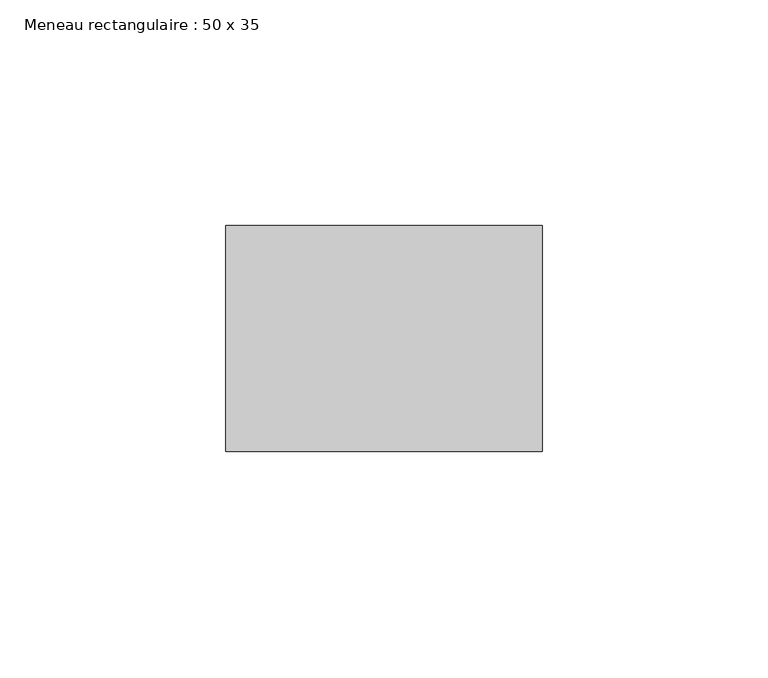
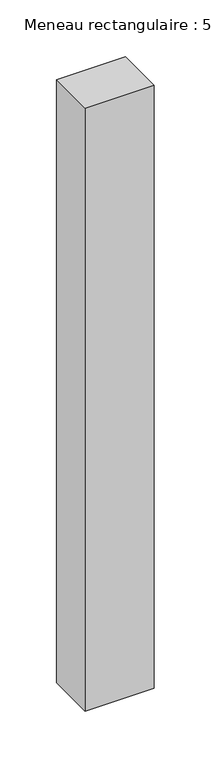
"""IFC4 building model written with IfcOpenShell, lengths in millimetres: member geometry, Meneau rectangulaire : 50 x 35."""

from ifc_helpers import new_model, si_unit, frame, origin, place, context, project, spatial, polyline, outline, extrude, source, transform, mapped, element, save


def meneau_rectangulaire_50_x_35_ffef914c(model_context):
    return source(origin(), model_context, "Body", "SweptSolid", [
        extrude(outline(polyline([(0.0, 0.0), (0.0, -50.0), (-70.0, -50.0), (-70.0, 0.0), (0.0, 0.0)])), frame((0.0, 0.0, -647.0), z_axis=(0.0, 0.0, 1.0), x_axis=(1.0, 0.0, 0.0)), (0.0, 0.0, 1.0), 647.0),
    ])


if __name__ == "__main__":
    model = new_model("IFC4")
    model_context = context("Model", 3, world=origin())
    ifc_project = project(units=[si_unit("LENGTHUNIT", "METRE", prefix="MILLI")], contexts=[model_context])
    site = spatial("IfcSite", under=ifc_project)
    building = spatial("IfcBuilding", under=site)
    placement = place(None, origin())
    meneau_rectangulaire_50_x_35_shape = meneau_rectangulaire_50_x_35_ffef914c(model_context)
    element("IfcMember", 1, ObjectType="Meneau rectangulaire : 50 x 35", at=placement, inside=building, context=model_context, shape_type="MappedRepresentation", body=[
        mapped(meneau_rectangulaire_50_x_35_shape, transform((0.0, 0.0, 0.0), x_axis=(1.0, 0.0, 0.0), y_axis=(0.0, 1.0, 0.0), z_axis=(0.0, 0.0, 1.0))),
    ])
    save(model, "model.ifc")
